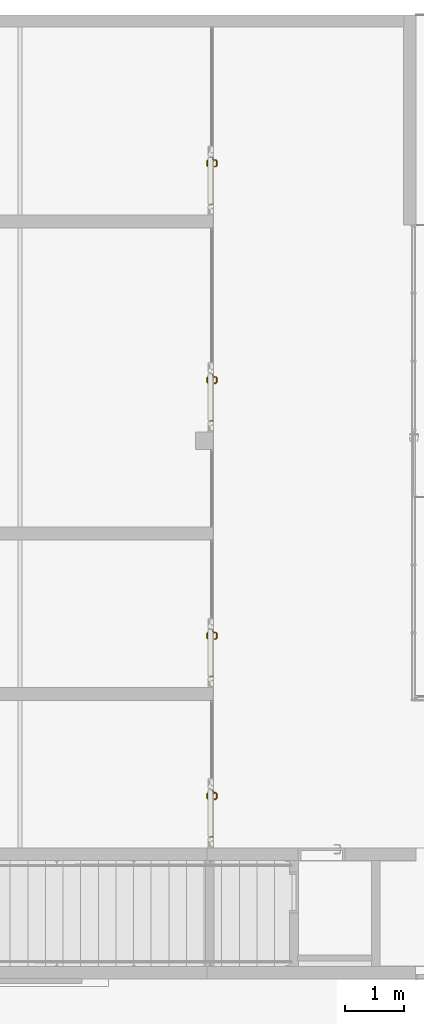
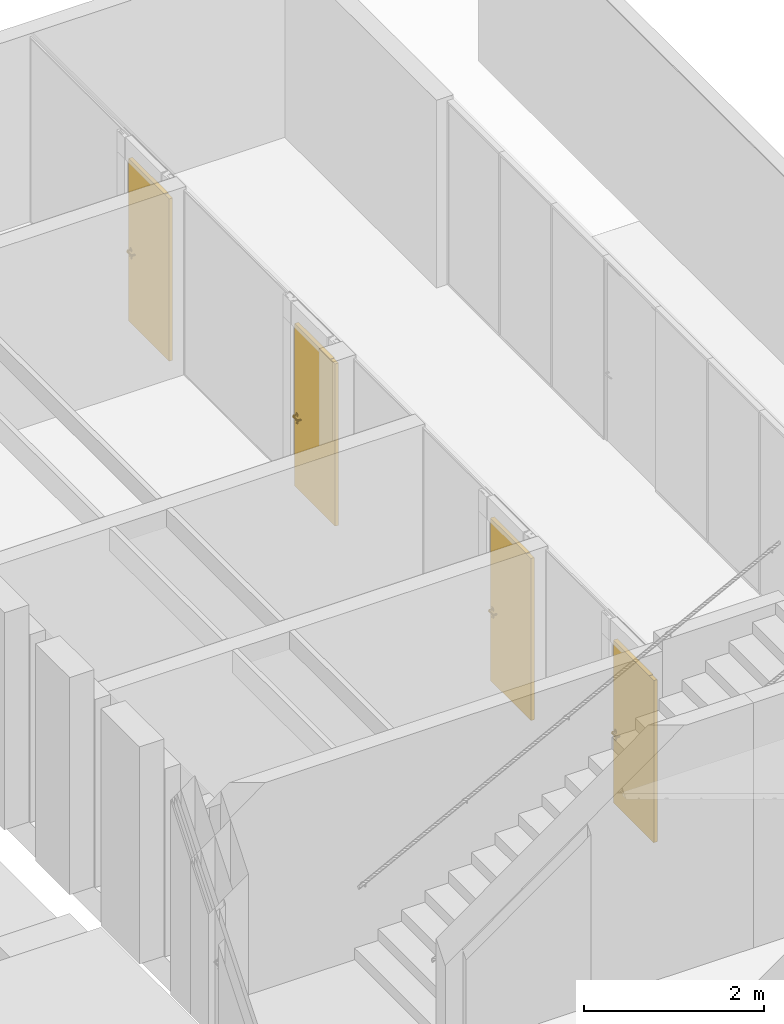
# One storey, part 50 of 79: 4 doors, 4 elements without a shape of their own.
"""IFC2X3 building model written with IfcOpenShell, lengths in millimetres."""

from ifc_helpers import new_model, entity, si_unit, converted_unit, derived_unit, money_unit, direction, frame, origin_with_axes, place, context, subcontext, project, spatial, open_shell, faceted_brep, surface_model, source, transform, mapped, material, material_list, type_object, element, aggregate, save


model = new_model("IFC2X3")

# Units and contexts
model_context = context("Model", 3, precision=0.01, world=origin_with_axes(), true_north=direction((0.0, 1.0)))
body_context = subcontext(model_context, "Body", "Model", "MODEL_VIEW")
ifc_project = project(units=[si_unit("LENGTHUNIT", "METRE", prefix="MILLI"), si_unit("AREAUNIT", "SQUARE_METRE"), si_unit("VOLUMEUNIT", "CUBIC_METRE"), converted_unit("PLANEANGLEUNIT", "DEGREE", entity("IfcPlaneAngleMeasure", 0.0174532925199), si_unit("PLANEANGLEUNIT", "RADIAN"), dimensions=[0, 0, 0, 0, 0, 0, 0]), si_unit("SOLIDANGLEUNIT", "STERADIAN"), money_unit("EUR"), converted_unit("TIMEUNIT", "Year", entity("IfcTimeMeasure", 31556926.0), si_unit("TIMEUNIT", "SECOND"), dimensions=[0, 0, 1, 0, 0, 0, 0]), si_unit("MASSUNIT", "GRAM", prefix="KILO"), si_unit("THERMODYNAMICTEMPERATUREUNIT", "DEGREE_CELSIUS"), si_unit("LUMINOUSINTENSITYUNIT", "LUMEN"), si_unit("ENERGYUNIT", "JOULE", prefix="MEGA"), derived_unit("THERMALCONDUCTANCEUNIT", [(si_unit("POWERUNIT", "WATT"), 1), (si_unit("LENGTHUNIT", "METRE"), -1), (si_unit("THERMODYNAMICTEMPERATUREUNIT", "KELVIN"), -1)]), derived_unit("SPECIFICHEATCAPACITYUNIT", [(si_unit("ENERGYUNIT", "JOULE"), 1), (si_unit("MASSUNIT", "GRAM", prefix="KILO"), -1), (si_unit("THERMODYNAMICTEMPERATUREUNIT", "KELVIN"), -1)]), derived_unit("MASSDENSITYUNIT", [(si_unit("MASSUNIT", "GRAM", prefix="KILO"), 1), (si_unit("VOLUMEUNIT", "CUBIC_METRE"), -1)])], contexts=[model_context])

# Site, building, storey
site_placement = place(None, origin_with_axes())
site = spatial("IfcSite", under=ifc_project, at=site_placement, Name="L.Koidula tn 11b", CompositionType="ELEMENT")
building_placement = place(site_placement, origin_with_axes())
building = spatial("IfcBuilding", under=site, at=building_placement, Name="Rakvere Riigigümnaasium", CompositionType="ELEMENT")
storey_placement = place(building_placement, frame((0.0, 0.0, 3720.0), z_axis=(0.0, 0.0, 1.0), x_axis=(1.0, 0.0, 0.0)))
storey = spatial("IfcBuildingStorey", under=building, at=storey_placement, Name="2.korrus +3,72", CompositionType="ELEMENT", Elevation=3720.0)

# Curtain wall, door
curtain_wall_type = type_object("IfcCurtainWallType", Name="Curtain Wall Type", PredefinedType="NOTDEFINED")
curtain_wall_1_placement = place(storey_placement, frame((41130.915445, 17840.4555248, 2.4134225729e-05), z_axis=(0.0, 0.0, 1.0), x_axis=(1.0, 0.0, 0.0)))
curtain_wall_1 = element("IfcCurtainWall", 1, at=curtain_wall_1_placement, inside=storey, type_object=curtain_wall_type, Name="SKLF-12")
ifc_material_1 = material(Name="MDF")
ifc_material_2 = material(Name="Teras")
ifc_material_list = material_list([ifc_material_1, ifc_material_2])
door_style = type_object("IfcDoorStyle", Name="Siseklaasfassaad - Uks 865 x 2200 x 44", ConstructionType="NOTDEFINED", OperationType="NOTDEFINED", ParameterTakesPrecedence=False, Sizeable=False)
shared_shape = source(origin_with_axes(), body_context, "Body", "SurfaceModel", [
    surface_model("IfcShellBasedSurfaceModel", [(-985.0, 0.0, -29.0), (-985.0, 2200.0, -29.0), (-955.0, 2170.0, -29.0), (-955.0, 0.0, -29.0)], [open_shell([[[0, 1, 2, 3]]])]),
    surface_model("IfcShellBasedSurfaceModel", [(-194.859690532, 2200.0, -29.0), (-224.859690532, 2170.0, -29.0), (-955.0, 2170.0, -29.0), (-985.0, 2200.0, -29.0)], [open_shell([[[0, 1, 2, 3]]])]),
    surface_model("IfcShellBasedSurfaceModel", [(-194.859690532, 0.0, -29.0), (-224.859690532, 0.0, -29.0), (-224.859690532, 2170.0, -29.0), (-194.859690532, 2200.0, -29.0)], [open_shell([[[0, 1, 2, 3]]])]),
    faceted_brep([(-989.0, 0.0, -29.0), (-989.0, 0.0, 22.0), (-989.0, 2204.0, 22.0), (-989.0, 2204.0, -29.0), (-985.0, 0.0, -29.0), (-985.0, 0.0, 22.0), (-985.0, 2200.0, 22.0), (-985.0, 2200.0, -29.0)], [[[0, 1, 2, 3]], [[4, 5, 1, 0]], [[1, 5, 6, 2]], [[3, 2, 6, 7]], [[0, 3, 7, 4]], [[7, 6, 5, 4]]]),
    faceted_brep([(-985.0, 2200.0, -29.0), (-985.0, 2200.0, 22.0), (-989.0, 2204.0, 22.0), (-989.0, 2204.0, -29.0), (-194.859690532, 2200.0, -29.0), (-194.859690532, 2200.0, 22.0), (-190.859690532, 2204.0, 22.0), (-190.859690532, 2204.0, -29.0)], [[[0, 1, 2, 3]], [[4, 5, 1, 0]], [[1, 5, 6, 2]], [[3, 2, 6, 7]], [[0, 3, 7, 4]], [[7, 6, 5, 4]]]),
    faceted_brep([(-194.859690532, 2200.0, -29.0), (-194.859690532, 2200.0, 22.0), (-190.859690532, 2204.0, 22.0), (-190.859690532, 2204.0, -29.0), (-194.859690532, 0.0, -29.0), (-194.859690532, 0.0, 22.0), (-190.859690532, 0.0, 22.0), (-190.859690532, 0.0, -29.0)], [[[0, 1, 2, 3]], [[4, 5, 1, 0]], [[1, 5, 6, 2]], [[3, 2, 6, 7]], [[0, 3, 7, 4]], [[7, 6, 5, 4]]]),
    faceted_brep([(-985.0, 0.0, -22.0), (-985.0, 0.0, 22.0), (-985.0, 2200.0, 22.0), (-985.0, 2200.0, -22.0), (-952.570154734, 0.0, -22.0), (-952.570154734, 0.0, 22.0), (-952.570154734, 2200.0, 22.0), (-952.570154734, 2200.0, -22.0)], [[[0, 1, 2, 3]], [[4, 5, 1, 0]], [[1, 5, 6, 2]], [[3, 2, 6, 7]], [[0, 3, 7, 4]], [[7, 6, 5, 4]]]),
    faceted_brep([(-87.4298452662, 2200.0, -22.0), (-87.4298452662, 2200.0, 22.0), (-87.4298452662, 0.0, 22.0), (-87.4298452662, 0.0, -22.0), (-194.859690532, 2200.0, -22.0), (-194.859690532, 2200.0, 22.0), (-194.859690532, 0.0, 22.0), (-194.859690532, 0.0, -22.0)], [[[0, 1, 2, 3]], [[4, 5, 1, 0]], [[1, 5, 6, 2]], [[3, 2, 6, 7]], [[0, 3, 7, 4]], [[7, 6, 5, 4]]]),
    surface_model("IfcShellBasedSurfaceModel", [(-190.859690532, 0.0, -29.0), (-190.859690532, 0.0, 22.0), (-989.0, 0.0, 22.0), (-989.0, 0.0, -29.0)], [open_shell([[[0, 1, 2, 3]], [[3, 2, 1, 0]]])]),
    surface_model("IfcShellBasedSurfaceModel", [(-190.859690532, 2204.0, -29.0), (-190.859690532, 2204.0, 22.0), (-989.0, 2204.0, 22.0), (-989.0, 2204.0, -29.0)], [open_shell([[[0, 1, 2, 3]], [[3, 2, 1, 0]]])]),
    faceted_brep([(-190.859690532, 0.0, -29.0), (-190.859690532, 0.0, 22.0), (-989.0, 0.0, 22.0), (-989.0, 0.0, -29.0), (-190.859690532, 2204.0, -29.0), (-190.859690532, 2204.0, 22.0), (-989.0, 2204.0, 22.0), (-989.0, 2204.0, -29.0)], [[[0, 1, 2, 3]], [[4, 5, 1, 0]], [[1, 5, 6, 2]], [[3, 2, 6, 7]], [[0, 3, 7, 4]], [[7, 6, 5, 4]]]),
    surface_model("IfcShellBasedSurfaceModel", [(-958.091883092, 1019.09188309, 32.0), (-939.0, 1027.0, 32.0), (-939.0, 1027.0, 31.9), (-958.091883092, 1019.09188309, 31.9), (-966.0, 1000.0, 32.0), (-958.091883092, 980.908116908, 32.0), (-939.0, 973.0, 32.0), (-919.908116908, 980.908116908, 32.0), (-912.0, 1000.0, 32.0), (-919.908116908, 1019.09188309, 32.0), (-919.908116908, 1019.09188309, 31.9), (-939.0, 1027.0, 22.1), (-958.091883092, 1019.09188309, 22.1), (-966.0, 1000.0, 31.9), (-958.091883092, 980.908116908, 31.9), (-939.0, 973.0, 31.9), (-919.908116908, 980.908116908, 31.9), (-912.0, 1000.0, 31.9), (-919.908116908, 1019.09188309, 22.1), (-939.0, 1027.0, 22.0), (-958.091883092, 1019.09188309, 22.0), (-966.0, 1000.0, 22.1), (-958.091883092, 980.908116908, 22.1), (-939.0, 973.0, 22.1), (-919.908116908, 980.908116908, 22.1), (-912.0, 1000.0, 22.1), (-919.908116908, 1019.09188309, 22.0), (-966.0, 1000.0, 22.0), (-958.091883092, 980.908116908, 22.0), (-939.0, 973.0, 22.0), (-919.908116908, 980.908116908, 22.0), (-912.0, 1000.0, 22.0)], [open_shell([[[0, 1, 2, 3]], [[1, 0, 4, 5, 6, 7, 8, 9]], [[1, 9, 10, 2]], [[3, 2, 11, 12]], [[4, 0, 3, 13]], [[5, 4, 13, 14]], [[6, 5, 14, 15]], [[7, 6, 15, 16]], [[8, 7, 16, 17]], [[9, 8, 17, 10]], [[2, 10, 18, 11]], [[12, 11, 19, 20]], [[13, 3, 12, 21]], [[14, 13, 21, 22]], [[15, 14, 22, 23]], [[16, 15, 23, 24]], [[17, 16, 24, 25]], [[10, 17, 25, 18]], [[11, 18, 26, 19]], [[21, 12, 20, 27]], [[22, 21, 27, 28]], [[23, 22, 28, 29]], [[24, 23, 29, 30]], [[25, 24, 30, 31]], [[18, 25, 31, 26]]])]),
    faceted_brep([(-939.0, 917.425445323, 32.0), (-939.0, 926.9, 32.0), (-958.021172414, 919.021172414, 32.0), (-944.524243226, 905.524243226, 32.0), (-946.467830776, 909.692280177, 32.0), (-944.375182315, 915.143815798, 32.0), (-933.624817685, 915.143815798, 32.0), (-931.532169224, 909.692280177, 32.0), (-933.475756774, 905.524243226, 32.0), (-919.978827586, 919.021172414, 32.0), (-939.0, 927.0, 32.0), (-958.091883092, 919.091883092, 32.0), (-965.9, 900.0, 32.0), (-944.0, 900.0, 32.0), (-944.0, 904.4, 32.0), (-944.0, 904.4, 31.0), (-944.524243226, 905.524243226, 31.0), (-946.467830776, 909.692280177, 31.0), (-944.375182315, 915.143815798, 31.0), (-939.0, 917.425445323, 31.0), (-933.624817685, 915.143815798, 31.0), (-931.532169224, 909.692280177, 31.0), (-933.475756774, 905.524243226, 31.0), (-934.0, 904.4, 31.0), (-934.0, 904.4, 32.0), (-934.0, 900.0, 32.0), (-912.1, 900.0, 32.0), (-919.908116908, 919.091883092, 32.0), (-939.0, 927.0, 31.9), (-958.091883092, 919.091883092, 31.9), (-966.0, 900.0, 32.0), (-944.0, 895.0, 32.0), (-958.021172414, 880.978827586, 32.0), (-944.0, 887.5, 32.0), (-944.0, 887.5, 31.0), (-944.0, 895.0, 31.0), (-944.0, 900.0, 31.0), (-964.9, 900.0, 31.0), (-957.314065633, 918.314065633, 31.0), (-939.0, 925.9, 31.0), (-920.685934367, 918.314065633, 31.0), (-913.1, 900.0, 31.0), (-934.0, 900.0, 31.0), (-934.0, 895.0, 31.0), (-934.0, 887.5, 31.0), (-934.0, 887.5, 32.0), (-934.0, 895.0, 32.0), (-919.978827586, 880.978827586, 32.0), (-912.0, 900.0, 32.0), (-919.908116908, 919.091883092, 31.9), (-939.0, 927.0, 22.1), (-958.091883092, 919.091883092, 22.1), (-966.0, 900.0, 31.9), (-958.091883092, 880.908116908, 32.0), (-939.0, 873.1, 32.0), (-939.0, 882.5, 32.0), (-942.535533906, 883.964466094, 32.0), (-942.535533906, 883.964466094, 31.0), (-939.0, 874.1, 31.0), (-957.314065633, 881.685934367, 31.0), (-939.0, 882.5, 31.0), (-965.0, 900.0, 31.0), (-957.384776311, 918.384776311, 31.0), (-939.0, 926.0, 31.0), (-920.615223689, 918.384776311, 31.0), (-913.0, 900.0, 31.0), (-920.685934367, 881.685934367, 31.0), (-935.464466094, 883.964466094, 31.0), (-935.464466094, 883.964466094, 32.0), (-919.908116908, 880.908116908, 32.0), (-912.0, 900.0, 31.9), (-919.908116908, 919.091883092, 22.1), (-939.0, 927.0, 22.0), (-958.091883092, 919.091883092, 22.0), (-966.0, 900.0, 22.1), (-958.091883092, 880.908116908, 31.9), (-939.0, 873.0, 32.0), (-939.0, 874.0, 31.0), (-957.384776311, 881.615223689, 31.0), (-965.0, 900.0, 30.9), (-957.384776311, 918.384776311, 30.9), (-939.0, 926.0, 30.9), (-920.615223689, 918.384776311, 30.9), (-913.0, 900.0, 30.9), (-920.615223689, 881.615223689, 31.0), (-919.908116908, 880.908116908, 31.9), (-912.0, 900.0, 22.1), (-919.908116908, 919.091883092, 22.0), (-939.0, 926.9, 22.0), (-958.021172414, 919.021172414, 22.0), (-966.0, 900.0, 22.0), (-958.091883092, 880.908116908, 22.1), (-939.0, 873.0, 31.9), (-939.0, 874.0, 30.9), (-957.384776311, 881.615223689, 30.9), (-965.0, 900.0, 22.1), (-957.384776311, 918.384776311, 22.1), (-939.0, 926.0, 22.1), (-920.615223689, 918.384776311, 22.1), (-913.0, 900.0, 22.1), (-920.615223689, 881.615223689, 30.9), (-919.908116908, 880.908116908, 22.1), (-912.0, 900.0, 22.0), (-919.978827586, 919.021172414, 22.0), (-939.0, 926.1, 22.0), (-957.455486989, 918.455486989, 22.0), (-965.9, 900.0, 22.0), (-958.091883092, 880.908116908, 22.0), (-939.0, 873.0, 22.1), (-939.0, 874.0, 22.1), (-957.384776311, 881.615223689, 22.1), (-965.0, 900.0, 22.0), (-957.384776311, 918.384776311, 22.0), (-939.0, 926.0, 22.0), (-920.615223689, 918.384776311, 22.0), (-913.0, 900.0, 22.0), (-920.615223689, 881.615223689, 22.1), (-919.908116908, 880.908116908, 22.0), (-912.1, 900.0, 22.0), (-920.544513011, 918.455486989, 22.0), (-965.1, 900.0, 22.0), (-958.021172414, 880.978827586, 22.0), (-939.0, 873.0, 22.0), (-939.0, 874.0, 22.0), (-957.384776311, 881.615223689, 22.0), (-912.9, 900.0, 22.0), (-920.615223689, 881.615223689, 22.0), (-919.978827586, 880.978827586, 22.0), (-957.455486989, 881.544513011, 22.0), (-939.0, 873.1, 22.0), (-939.0, 873.9, 22.0), (-920.544513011, 881.544513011, 22.0)], [[[0, 1, 2, 3, 4, 5]], [[6, 7, 8, 9, 1, 0]], [[10, 11, 2, 1]], [[3, 2, 12, 13, 14]], [[3, 14, 15, 16, 17, 4]], [[4, 17, 18, 5]], [[5, 18, 19, 0]], [[6, 20, 21, 7]], [[8, 7, 21, 22, 23, 24]], [[24, 25, 26, 9, 8]], [[27, 10, 1, 9]], [[0, 19, 20, 6]], [[28, 29, 11, 10]], [[11, 30, 12, 2]], [[31, 13, 12, 32]], [[14, 13, 31, 33, 34, 35, 36, 15]], [[15, 36, 37, 38, 16]], [[18, 17, 16, 38, 39, 19]], [[21, 20, 19, 39, 40, 22]], [[22, 40, 41, 42, 23]], [[23, 42, 43, 44, 45, 46, 25, 24]], [[25, 46, 47, 26]], [[48, 27, 9, 26]], [[49, 28, 10, 27]], [[50, 51, 29, 28]], [[29, 52, 30, 11]], [[30, 53, 32, 12]], [[32, 54, 55, 56, 33, 31]], [[33, 56, 57, 34]], [[58, 59, 35, 34, 57, 60]], [[36, 35, 59, 37]], [[38, 37, 61, 62]], [[39, 38, 62, 63]], [[40, 39, 63, 64]], [[41, 40, 64, 65]], [[43, 42, 41, 66]], [[66, 58, 60, 67, 44, 43]], [[68, 45, 44, 67]], [[54, 47, 46, 45, 68, 55]], [[69, 48, 26, 47]], [[70, 49, 27, 48]], [[71, 50, 28, 49]], [[72, 73, 51, 50]], [[51, 74, 52, 29]], [[52, 75, 53, 30]], [[53, 76, 54, 32]], [[56, 55, 60, 57]], [[59, 58, 77, 78]], [[37, 59, 78, 61]], [[62, 61, 79, 80]], [[63, 62, 80, 81]], [[64, 63, 81, 82]], [[65, 64, 82, 83]], [[66, 41, 65, 84]], [[58, 66, 84, 77]], [[55, 68, 67, 60]], [[76, 69, 47, 54]], [[85, 70, 48, 69]], [[86, 71, 49, 70]], [[87, 72, 50, 71]], [[88, 89, 73, 72]], [[73, 90, 74, 51]], [[74, 91, 75, 52]], [[75, 92, 76, 53]], [[78, 77, 93, 94]], [[61, 78, 94, 79]], [[80, 79, 95, 96]], [[81, 80, 96, 97]], [[82, 81, 97, 98]], [[83, 82, 98, 99]], [[84, 65, 83, 100]], [[77, 84, 100, 93]], [[92, 85, 69, 76]], [[101, 86, 70, 85]], [[102, 87, 71, 86]], [[103, 88, 72, 87]], [[104, 105, 89, 88]], [[89, 106, 90, 73]], [[90, 107, 91, 74]], [[91, 108, 92, 75]], [[94, 93, 109, 110]], [[79, 94, 110, 95]], [[96, 95, 111, 112]], [[97, 96, 112, 113]], [[98, 97, 113, 114]], [[99, 98, 114, 115]], [[100, 83, 99, 116]], [[93, 100, 116, 109]], [[108, 101, 85, 92]], [[117, 102, 86, 101]], [[118, 103, 87, 102]], [[119, 104, 88, 103]], [[113, 112, 105, 104]], [[105, 120, 106, 89]], [[106, 121, 107, 90]], [[107, 122, 108, 91]], [[110, 109, 123, 124]], [[95, 110, 124, 111]], [[112, 111, 120, 105]], [[114, 113, 104, 119]], [[115, 114, 119, 125]], [[116, 99, 115, 126]], [[109, 116, 126, 123]], [[122, 117, 101, 108]], [[127, 118, 102, 117]], [[125, 119, 103, 118]], [[120, 128, 121, 106]], [[121, 129, 122, 107]], [[124, 123, 130, 128]], [[111, 124, 128, 120]], [[126, 115, 125, 131]], [[123, 126, 131, 130]], [[129, 127, 117, 122]], [[131, 125, 118, 127]], [[128, 130, 129, 121]], [[130, 131, 127, 129]]]),
    surface_model("IfcShellBasedSurfaceModel", [(-949.0, 1000.0, 32.0), (-946.071067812, 992.928932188, 32.0), (-946.071067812, 992.928932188, 64.9289321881), (-949.0, 1000.0, 66.1421356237), (-939.0, 990.0, 32.0), (-939.0, 990.0, 62.0), (-926.928932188, 992.928932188, 84.0710678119), (-928.142135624, 1000.0, 87.0), (-946.071067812, 1007.07106781, 32.0), (-946.071067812, 1007.07106781, 64.9289321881), (-931.928932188, 992.928932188, 32.0), (-931.928932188, 992.928932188, 59.0710678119), (-924.0, 990.0, 77.0), (-841.071067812, 992.928932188, 84.0710678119), (-839.857864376, 1000.0, 87.0), (-926.928932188, 1007.07106781, 84.0710678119), (-939.0, 1010.0, 32.0), (-939.0, 1010.0, 62.0), (-929.0, 1000.0, 32.0), (-929.0, 1000.0, 57.8578643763), (-921.071067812, 992.928932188, 69.9289321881), (-844.0, 990.0, 77.0), (-821.928932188, 992.928932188, 64.9289321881), (-819.0, 1000.0, 66.1421356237), (-841.071067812, 1007.07106781, 84.0710678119), (-924.0, 1010.0, 77.0), (-931.928932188, 1007.07106781, 32.0), (-931.928932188, 1007.07106781, 59.0710678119), (-919.857864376, 1000.0, 67.0), (-846.928932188, 992.928932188, 69.9289321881), (-829.0, 990.0, 62.0), (-821.928932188, 992.928932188, 32.0), (-819.0, 1000.0, 32.0), (-821.928932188, 1007.07106781, 64.9289321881), (-844.0, 1010.0, 77.0), (-921.071067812, 1007.07106781, 69.9289321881), (-848.142135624, 1000.0, 67.0), (-836.071067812, 992.928932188, 59.0710678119), (-829.0, 990.0, 32.0), (-836.071067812, 992.928932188, 32.0), (-839.0, 1000.0, 32.0), (-836.071067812, 1007.07106781, 32.0), (-829.0, 1010.0, 32.0), (-821.928932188, 1007.07106781, 32.0), (-829.0, 1010.0, 62.0), (-846.928932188, 1007.07106781, 69.9289321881), (-839.0, 1000.0, 57.8578643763), (-836.071067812, 1007.07106781, 59.0710678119)], [open_shell([[[0, 1, 2, 3]], [[1, 4, 5, 2]], [[3, 2, 6, 7]], [[8, 0, 3, 9]], [[4, 10, 11, 5]], [[2, 5, 12, 6]], [[7, 6, 13, 14]], [[9, 3, 7, 15]], [[16, 8, 9, 17]], [[10, 18, 19, 11]], [[5, 11, 20, 12]], [[6, 12, 21, 13]], [[14, 13, 22, 23]], [[15, 7, 14, 24]], [[17, 9, 15, 25]], [[26, 16, 17, 27]], [[18, 26, 27, 19]], [[11, 19, 28, 20]], [[12, 20, 29, 21]], [[13, 21, 30, 22]], [[23, 22, 31, 32]], [[24, 14, 23, 33]], [[25, 15, 24, 34]], [[27, 17, 25, 35]], [[19, 27, 35, 28]], [[20, 28, 36, 29]], [[21, 29, 37, 30]], [[22, 30, 38, 31]], [[32, 31, 38, 39, 40, 41, 42, 43]], [[33, 23, 32, 43]], [[34, 24, 33, 44]], [[35, 25, 34, 45]], [[28, 35, 45, 36]], [[29, 36, 46, 37]], [[30, 37, 39, 38]], [[37, 46, 40, 39]], [[46, 47, 41, 40]], [[47, 44, 42, 41]], [[44, 33, 43, 42]], [[45, 34, 44, 47]], [[36, 45, 47, 46]]])]),
    surface_model("IfcShellBasedSurfaceModel", [(-958.091883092, 1019.09188309, -39.0), (-958.091883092, 1019.09188309, -38.9), (-939.0, 1027.0, -38.9), (-939.0, 1027.0, -39.0), (-966.0, 1000.0, -39.0), (-966.0, 1000.0, -38.9), (-958.091883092, 1019.09188309, -29.1), (-939.0, 1027.0, -29.1), (-919.908116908, 1019.09188309, -38.9), (-919.908116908, 1019.09188309, -39.0), (-912.0, 1000.0, -39.0), (-919.908116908, 980.908116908, -39.0), (-939.0, 973.0, -39.0), (-958.091883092, 980.908116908, -39.0), (-958.091883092, 980.908116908, -38.9), (-966.0, 1000.0, -29.1), (-958.091883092, 1019.09188309, -29.0), (-939.0, 1027.0, -29.0), (-919.908116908, 1019.09188309, -29.1), (-912.0, 1000.0, -38.9), (-919.908116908, 980.908116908, -38.9), (-939.0, 973.0, -38.9), (-958.091883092, 980.908116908, -29.1), (-966.0, 1000.0, -29.0), (-919.908116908, 1019.09188309, -29.0), (-912.0, 1000.0, -29.1), (-919.908116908, 980.908116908, -29.1), (-939.0, 973.0, -29.1), (-958.091883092, 980.908116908, -29.0), (-912.0, 1000.0, -29.0), (-919.908116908, 980.908116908, -29.0), (-939.0, 973.0, -29.0)], [open_shell([[[0, 1, 2, 3]], [[4, 5, 1, 0]], [[1, 6, 7, 2]], [[3, 2, 8, 9]], [[3, 9, 10, 11, 12, 13, 4, 0]], [[13, 14, 5, 4]], [[5, 15, 6, 1]], [[6, 16, 17, 7]], [[2, 7, 18, 8]], [[9, 8, 19, 10]], [[10, 19, 20, 11]], [[11, 20, 21, 12]], [[12, 21, 14, 13]], [[14, 22, 15, 5]], [[15, 23, 16, 6]], [[7, 17, 24, 18]], [[8, 18, 25, 19]], [[19, 25, 26, 20]], [[20, 26, 27, 21]], [[21, 27, 22, 14]], [[22, 28, 23, 15]], [[18, 24, 29, 25]], [[25, 29, 30, 26]], [[26, 30, 31, 27]], [[27, 31, 28, 22]]])]),
    faceted_brep([(-939.0, 917.425445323, -38.0), (-939.0, 925.9, -38.0), (-957.314065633, 918.314065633, -38.0), (-944.524243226, 905.524243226, -38.0), (-946.467830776, 909.692280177, -38.0), (-944.375182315, 915.143815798, -38.0), (-933.624817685, 915.143815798, -38.0), (-931.532169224, 909.692280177, -38.0), (-933.475756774, 905.524243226, -38.0), (-920.685934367, 918.314065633, -38.0), (-939.0, 926.0, -38.0), (-957.384776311, 918.384776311, -38.0), (-964.9, 900.0, -38.0), (-944.0, 900.0, -38.0), (-944.0, 904.4, -38.0), (-944.0, 904.4, -39.0), (-944.524243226, 905.524243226, -39.0), (-946.467830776, 909.692280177, -39.0), (-944.375182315, 915.143815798, -39.0), (-939.0, 917.425445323, -39.0), (-933.624817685, 915.143815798, -39.0), (-931.532169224, 909.692280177, -39.0), (-933.475756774, 905.524243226, -39.0), (-934.0, 904.4, -39.0), (-934.0, 904.4, -38.0), (-934.0, 900.0, -38.0), (-913.1, 900.0, -38.0), (-920.615223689, 918.384776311, -38.0), (-939.0, 926.0, -37.9), (-957.384776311, 918.384776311, -37.9), (-965.0, 900.0, -38.0), (-944.0, 895.0, -38.0), (-957.314065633, 881.685934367, -38.0), (-944.0, 887.5, -38.0), (-944.0, 887.5, -39.0), (-944.0, 895.0, -39.0), (-944.0, 900.0, -39.0), (-965.9, 900.0, -39.0), (-958.021172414, 919.021172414, -39.0), (-939.0, 926.9, -39.0), (-919.978827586, 919.021172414, -39.0), (-912.1, 900.0, -39.0), (-934.0, 900.0, -39.0), (-934.0, 895.0, -39.0), (-934.0, 887.5, -39.0), (-934.0, 887.5, -38.0), (-934.0, 895.0, -38.0), (-920.685934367, 881.685934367, -38.0), (-913.0, 900.0, -38.0), (-920.615223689, 918.384776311, -37.9), (-939.0, 926.0, -29.1), (-957.384776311, 918.384776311, -29.1), (-965.0, 900.0, -37.9), (-957.384776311, 881.615223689, -38.0), (-939.0, 874.1, -38.0), (-939.0, 882.5, -38.0), (-942.535533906, 883.964466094, -38.0), (-942.535533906, 883.964466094, -39.0), (-939.0, 873.1, -39.0), (-958.021172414, 880.978827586, -39.0), (-939.0, 882.5, -39.0), (-958.091883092, 919.091883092, -39.0), (-966.0, 900.0, -39.0), (-939.0, 927.0, -39.0), (-919.908116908, 919.091883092, -39.0), (-912.0, 900.0, -39.0), (-919.978827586, 880.978827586, -39.0), (-935.464466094, 883.964466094, -39.0), (-935.464466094, 883.964466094, -38.0), (-920.615223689, 881.615223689, -38.0), (-913.0, 900.0, -37.9), (-920.615223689, 918.384776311, -29.1), (-939.0, 926.0, -29.0), (-957.384776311, 918.384776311, -29.0), (-965.0, 900.0, -29.1), (-957.384776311, 881.615223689, -37.9), (-939.0, 874.0, -38.0), (-958.091883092, 880.908116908, -39.0), (-939.0, 873.0, -39.0), (-958.091883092, 919.091883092, -38.9), (-966.0, 900.0, -38.9), (-939.0, 927.0, -38.9), (-919.908116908, 919.091883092, -38.9), (-919.908116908, 880.908116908, -39.0), (-912.0, 900.0, -38.9), (-920.615223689, 881.615223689, -37.9), (-913.0, 900.0, -29.1), (-920.615223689, 918.384776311, -29.0), (-939.0, 926.1, -29.0), (-957.455486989, 918.455486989, -29.0), (-965.0, 900.0, -29.0), (-957.384776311, 881.615223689, -29.1), (-939.0, 874.0, -37.9), (-958.091883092, 880.908116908, -38.9), (-939.0, 873.0, -38.9), (-958.091883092, 919.091883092, -29.1), (-966.0, 900.0, -29.1), (-939.0, 927.0, -29.1), (-919.908116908, 919.091883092, -29.1), (-919.908116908, 880.908116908, -38.9), (-912.0, 900.0, -29.1), (-920.615223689, 881.615223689, -29.1), (-913.0, 900.0, -29.0), (-920.544513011, 918.455486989, -29.0), (-939.0, 926.9, -29.0), (-958.021172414, 919.021172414, -29.0), (-965.1, 900.0, -29.0), (-957.384776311, 881.615223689, -29.0), (-939.0, 874.0, -29.1), (-958.091883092, 880.908116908, -29.1), (-939.0, 873.0, -29.1), (-958.091883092, 919.091883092, -29.0), (-966.0, 900.0, -29.0), (-939.0, 927.0, -29.0), (-919.908116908, 919.091883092, -29.0), (-919.908116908, 880.908116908, -29.1), (-912.0, 900.0, -29.0), (-920.615223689, 881.615223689, -29.0), (-912.9, 900.0, -29.0), (-919.978827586, 919.021172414, -29.0), (-965.9, 900.0, -29.0), (-957.455486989, 881.544513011, -29.0), (-939.0, 874.0, -29.0), (-958.091883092, 880.908116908, -29.0), (-939.0, 873.0, -29.0), (-919.908116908, 880.908116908, -29.0), (-912.1, 900.0, -29.0), (-920.544513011, 881.544513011, -29.0), (-958.021172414, 880.978827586, -29.0), (-939.0, 873.9, -29.0), (-939.0, 873.1, -29.0), (-919.978827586, 880.978827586, -29.0)], [[[0, 1, 2, 3, 4, 5]], [[6, 7, 8, 9, 1, 0]], [[1, 10, 11, 2]], [[3, 2, 12, 13, 14]], [[3, 14, 15, 16, 17, 4]], [[4, 17, 18, 5]], [[5, 18, 19, 0]], [[6, 20, 21, 7]], [[8, 7, 21, 22, 23, 24]], [[24, 25, 26, 9, 8]], [[9, 27, 10, 1]], [[0, 19, 20, 6]], [[10, 28, 29, 11]], [[2, 11, 30, 12]], [[31, 13, 12, 32]], [[14, 13, 31, 33, 34, 35, 36, 15]], [[15, 36, 37, 38, 16]], [[18, 17, 16, 38, 39, 19]], [[21, 20, 19, 39, 40, 22]], [[22, 40, 41, 42, 23]], [[23, 42, 43, 44, 45, 46, 25, 24]], [[25, 46, 47, 26]], [[26, 48, 27, 9]], [[27, 49, 28, 10]], [[28, 50, 51, 29]], [[11, 29, 52, 30]], [[12, 30, 53, 32]], [[32, 54, 55, 56, 33, 31]], [[33, 56, 57, 34]], [[58, 59, 35, 34, 57, 60]], [[36, 35, 59, 37]], [[61, 38, 37, 62]], [[63, 39, 38, 61]], [[64, 40, 39, 63]], [[65, 41, 40, 64]], [[43, 42, 41, 66]], [[66, 58, 60, 67, 44, 43]], [[68, 45, 44, 67]], [[54, 47, 46, 45, 68, 55]], [[47, 69, 48, 26]], [[48, 70, 49, 27]], [[49, 71, 50, 28]], [[50, 72, 73, 51]], [[29, 51, 74, 52]], [[30, 52, 75, 53]], [[32, 53, 76, 54]], [[56, 55, 60, 57]], [[77, 59, 58, 78]], [[62, 37, 59, 77]], [[79, 61, 62, 80]], [[81, 63, 61, 79]], [[82, 64, 63, 81]], [[83, 66, 41, 65]], [[84, 65, 64, 82]], [[78, 58, 66, 83]], [[55, 68, 67, 60]], [[54, 76, 69, 47]], [[69, 85, 70, 48]], [[70, 86, 71, 49]], [[71, 87, 72, 50]], [[72, 88, 89, 73]], [[51, 73, 90, 74]], [[52, 74, 91, 75]], [[53, 75, 92, 76]], [[93, 77, 78, 94]], [[80, 62, 77, 93]], [[95, 79, 80, 96]], [[97, 81, 79, 95]], [[98, 82, 81, 97]], [[99, 83, 65, 84]], [[100, 84, 82, 98]], [[94, 78, 83, 99]], [[76, 92, 85, 69]], [[85, 101, 86, 70]], [[86, 102, 87, 71]], [[87, 103, 88, 72]], [[88, 104, 105, 89]], [[73, 89, 106, 90]], [[74, 90, 107, 91]], [[75, 91, 108, 92]], [[109, 93, 94, 110]], [[96, 80, 93, 109]], [[111, 95, 96, 112]], [[113, 97, 95, 111]], [[114, 98, 97, 113]], [[115, 99, 84, 100]], [[116, 100, 98, 114]], [[110, 94, 99, 115]], [[92, 108, 101, 85]], [[101, 117, 102, 86]], [[102, 118, 103, 87]], [[103, 119, 104, 88]], [[104, 113, 111, 105]], [[89, 105, 120, 106]], [[90, 106, 121, 107]], [[91, 107, 122, 108]], [[123, 109, 110, 124]], [[112, 96, 109, 123]], [[105, 111, 112, 120]], [[119, 114, 113, 104]], [[125, 115, 100, 116]], [[126, 116, 114, 119]], [[124, 110, 115, 125]], [[108, 122, 117, 101]], [[117, 127, 118, 102]], [[118, 126, 119, 103]], [[106, 120, 128, 121]], [[107, 121, 129, 122]], [[128, 123, 124, 130]], [[120, 112, 123, 128]], [[131, 125, 116, 126]], [[130, 124, 125, 131]], [[122, 129, 127, 117]], [[127, 131, 126, 118]], [[121, 128, 130, 129]], [[129, 130, 131, 127]]]),
    surface_model("IfcShellBasedSurfaceModel", [(-949.0, 1000.0, -39.0), (-949.0, 1000.0, -73.1421356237), (-946.071067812, 992.928932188, -71.9289321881), (-946.071067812, 992.928932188, -39.0), (-946.071067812, 1007.07106781, -39.0), (-946.071067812, 1007.07106781, -71.9289321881), (-928.142135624, 1000.0, -94.0), (-926.928932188, 992.928932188, -91.0710678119), (-939.0, 990.0, -69.0), (-939.0, 990.0, -39.0), (-939.0, 1010.0, -39.0), (-939.0, 1010.0, -69.0), (-926.928932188, 1007.07106781, -91.0710678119), (-839.857864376, 1000.0, -94.0), (-841.071067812, 992.928932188, -91.0710678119), (-924.0, 990.0, -84.0), (-931.928932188, 992.928932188, -66.0710678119), (-931.928932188, 992.928932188, -39.0), (-931.928932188, 1007.07106781, -39.0), (-931.928932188, 1007.07106781, -66.0710678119), (-924.0, 1010.0, -84.0), (-841.071067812, 1007.07106781, -91.0710678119), (-819.0, 1000.0, -73.1421356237), (-821.928932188, 992.928932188, -71.9289321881), (-844.0, 990.0, -84.0), (-921.071067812, 992.928932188, -76.9289321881), (-929.0, 1000.0, -64.8578643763), (-929.0, 1000.0, -39.0), (-921.071067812, 1007.07106781, -76.9289321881), (-844.0, 1010.0, -84.0), (-821.928932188, 1007.07106781, -71.9289321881), (-819.0, 1000.0, -39.0), (-821.928932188, 992.928932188, -39.0), (-829.0, 990.0, -69.0), (-846.928932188, 992.928932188, -76.9289321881), (-919.857864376, 1000.0, -74.0), (-846.928932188, 1007.07106781, -76.9289321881), (-829.0, 1010.0, -69.0), (-821.928932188, 1007.07106781, -39.0), (-829.0, 1010.0, -39.0), (-836.071067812, 1007.07106781, -39.0), (-839.0, 1000.0, -39.0), (-836.071067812, 992.928932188, -39.0), (-829.0, 990.0, -39.0), (-836.071067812, 992.928932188, -66.0710678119), (-848.142135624, 1000.0, -74.0), (-836.071067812, 1007.07106781, -66.0710678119), (-839.0, 1000.0, -64.8578643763)], [open_shell([[[0, 1, 2, 3]], [[4, 5, 1, 0]], [[1, 6, 7, 2]], [[3, 2, 8, 9]], [[10, 11, 5, 4]], [[5, 12, 6, 1]], [[6, 13, 14, 7]], [[2, 7, 15, 8]], [[9, 8, 16, 17]], [[18, 19, 11, 10]], [[11, 20, 12, 5]], [[12, 21, 13, 6]], [[13, 22, 23, 14]], [[7, 14, 24, 15]], [[8, 15, 25, 16]], [[17, 16, 26, 27]], [[27, 26, 19, 18]], [[19, 28, 20, 11]], [[20, 29, 21, 12]], [[21, 30, 22, 13]], [[22, 31, 32, 23]], [[14, 23, 33, 24]], [[15, 24, 34, 25]], [[16, 25, 35, 26]], [[26, 35, 28, 19]], [[28, 36, 29, 20]], [[29, 37, 30, 21]], [[30, 38, 31, 22]], [[31, 38, 39, 40, 41, 42, 43, 32]], [[23, 32, 43, 33]], [[24, 33, 44, 34]], [[25, 34, 45, 35]], [[35, 45, 36, 28]], [[36, 46, 37, 29]], [[37, 39, 38, 30]], [[46, 40, 39, 37]], [[47, 41, 40, 46]], [[44, 42, 41, 47]], [[33, 43, 42, 44]], [[34, 44, 47, 45]], [[45, 47, 46, 36]]])]),
])
door_1_placement = place(curtain_wall_1_placement, frame((0.0, 0.0, 1099.99997587), z_axis=(0.0, 0.0, 1.0), x_axis=(-4.21371043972e-05, -0.999999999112, 0.0)))
door_1 = element("IfcDoor", 2, at=door_1_placement, type_object=door_style, material=ifc_material_list, Name="PV-SKLF-30-klaas", ObjectType="DOOR", context=body_context, shape_type="MappedRepresentation", body=[
    mapped(shared_shape, transform((520.0, 0.0, -1100.0), x_axis=(1.0, 0.0, 0.0), y_axis=(0.0, 0.0, 1.0), z_axis=(0.0, -1.0, 0.0))),
])
aggregate(curtain_wall_1, [door_1])

curtain_wall_2_placement = place(storey_placement, frame((41130.9157939, 20570.4555219, 2.41342252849e-05), z_axis=(0.0, 0.0, 1.0), x_axis=(1.0, 0.0, 0.0)))
curtain_wall_2 = element("IfcCurtainWall", 3, at=curtain_wall_2_placement, inside=storey, type_object=curtain_wall_type, Name="SKLF-13")
door_2_placement = place(curtain_wall_2_placement, frame((0.0, 0.0, 1099.99997587), z_axis=(0.0, 0.0, 1.0), x_axis=(-4.28079159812e-05, -0.999999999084, 0.0)))
door_2 = element("IfcDoor", 4, at=door_2_placement, type_object=door_style, material=ifc_material_list, Name="PV-SKLF-30-klaas", ObjectType="DOOR", context=body_context, shape_type="MappedRepresentation", body=[
    mapped(shared_shape, transform((520.0, 0.0, -1100.0), x_axis=(1.0, 0.0, 0.0), y_axis=(0.0, 0.0, 1.0), z_axis=(0.0, -1.0, 0.0))),
])
aggregate(curtain_wall_2, [door_2])

curtain_wall_3_placement = place(storey_placement, frame((41130.915445, 24920.4555468, 0.0), z_axis=(0.0, 0.0, 1.0), x_axis=(1.0, 0.0, 0.0)))
curtain_wall_3 = element("IfcCurtainWall", 5, at=curtain_wall_3_placement, inside=storey, type_object=curtain_wall_type, Name="SKLF-15")
door_3_placement = place(curtain_wall_3_placement, frame((0.0, 0.0, 1100.0), z_axis=(0.0, 0.0, 1.0), x_axis=(-4.21371043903e-05, -0.999999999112, 0.0)))
door_3 = element("IfcDoor", 6, at=door_3_placement, type_object=door_style, material=ifc_material_list, Name="PV-SKLF-30-klaas", ObjectType="DOOR", context=body_context, shape_type="MappedRepresentation", body=[
    mapped(shared_shape, transform((520.0, 0.0, -1100.0), x_axis=(1.0, 0.0, 0.0), y_axis=(0.0, 0.0, 1.0), z_axis=(0.0, -1.0, 0.0))),
])
aggregate(curtain_wall_3, [door_3])

curtain_wall_4_placement = place(storey_placement, frame((41130.915445, 28609.9592257, 0.0), z_axis=(0.0, 0.0, 1.0), x_axis=(1.0, 0.0, 0.0)))
curtain_wall_4 = element("IfcCurtainWall", 7, at=curtain_wall_4_placement, inside=storey, type_object=curtain_wall_type, Name="SKLF-16")
door_4_placement = place(curtain_wall_4_placement, frame((0.0, 0.0, 1100.0), z_axis=(0.0, 0.0, 1.0), x_axis=(-4.21371043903e-05, -0.999999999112, 0.0)))
door_4 = element("IfcDoor", 8, at=door_4_placement, type_object=door_style, material=ifc_material_list, Name="PV-SKLF-37-klaas", ObjectType="DOOR", context=body_context, shape_type="MappedRepresentation", body=[
    mapped(shared_shape, transform((520.0, 0.0, -1100.0), x_axis=(1.0, 0.0, 0.0), y_axis=(0.0, 0.0, 1.0), z_axis=(0.0, -1.0, 0.0))),
])
aggregate(curtain_wall_4, [door_4])

save(model, "model.ifc")
